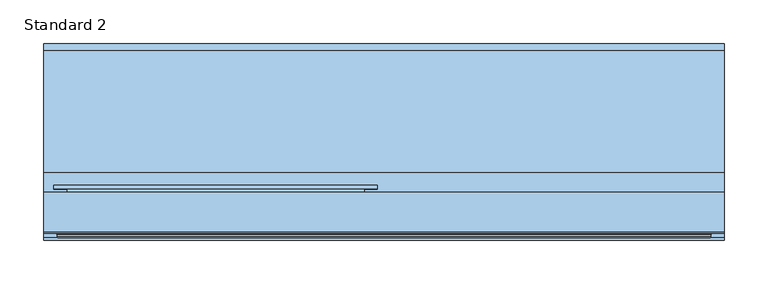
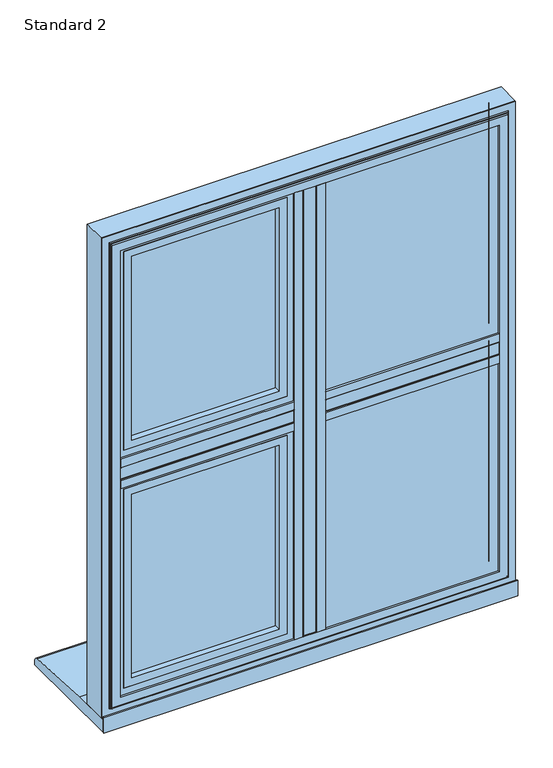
"""IFC4 building model written with IfcOpenShell, lengths in millimetres: window geometry, SMARTS_AlithermHeritage : Standard 2."""

from ifc_helpers import new_model, si_unit, point, frame, frame_2d, origin, place, context, project, spatial, polyline, circle_curve, ellipse_curve, trimmed, segment, composite_curve, outline, extrude, faceted_brep, source, transform, mapped, element, save
from ifc_brep_helpers import plane_surface, cylinder_surface, revolved_surface, advanced_brep


def standard_2_6e61233b(model_context):
    return source(origin(), model_context, "Body", "SolidModel", [
        extrude(outline(polyline([(-13.6941456, 95.2798432), (13.6941456, 95.2798432), (13.6941456, 47.279476), (-13.6941456, 47.279476), (-13.6941456, 95.2798432)])), frame((0.0, 0.0, 652.6941456), z_axis=(0.0, 0.0, 1.0), x_axis=(1.0, 0.0, 0.0)), (0.0, 0.0, 1.0), 919.6117089),
        extrude(outline(composite_curve([segment(polyline([(-29.0, 47.279476), (29.0, 47.279476), (29.0, 43.2798432), (13.0, 43.2798432)]), True, "CONTINUOUS"), segment(trimmed(circle_curve(frame_2d((13.0, 44.2798432)), 1.0), [point((13.0, 43.2798432))], [point((12.0, 44.2798432))], False, "CARTESIAN"), True, "CONTINUOUS"), segment(polyline([(12.0, 44.2798432), (12.0, 45.7798432), (-12.0, 45.7798432), (-12.0, 44.2798432)]), True, "CONTINUOUS"), segment(trimmed(circle_curve(frame_2d((-13.0, 44.2798432)), 1.0), [point((-12.0, 44.2798432))], [point((-13.0, 43.2798432))], False, "CARTESIAN"), True, "CONTINUOUS"), segment(polyline([(-13.0, 43.2798432), (-29.0, 43.2798432), (-29.0, 47.279476)]), True, "CONTINUOUS")], self_intersect=False)), frame((0.0, 0.0, 668.0), z_axis=(0.0, 0.0, 1.0), x_axis=(1.0, 0.0, 0.0)), (0.0, 0.0, 1.0), 889.0),
        extrude(outline(polyline([(-13.6941456, 95.2798432), (-13.6941456, 47.279476), (-372.3058544, 47.279476), (-372.3058544, 95.2798432), (-13.6941456, 95.2798432)])), frame((0.0, 0.0, 1098.8058544), z_axis=(0.0, 0.0, 1.0), x_axis=(1.0, 0.0, 0.0)), (0.0, 0.0, 1.0), 27.3882911),
        extrude(outline(composite_curve([segment(polyline([(47.279476, 1083.5), (43.2798432, 1083.5), (43.2798432, 1099.5)]), True, "CONTINUOUS"), segment(trimmed(circle_curve(frame_2d((44.2798432, 1099.5)), 1.0), [point((43.2798432, 1099.5))], [point((44.2798432, 1100.5))], False, "CARTESIAN"), True, "CONTINUOUS"), segment(polyline([(44.2798432, 1100.5), (45.7798432, 1100.5), (45.7798432, 1124.5), (44.2798432, 1124.5)]), True, "CONTINUOUS"), segment(trimmed(circle_curve(frame_2d((44.2798432, 1125.5)), 1.0), [point((44.2798432, 1124.5))], [point((43.2798432, 1125.5))], False, "CARTESIAN"), True, "CONTINUOUS"), segment(polyline([(43.2798432, 1125.5), (43.2798432, 1141.5), (47.279476, 1141.5), (47.279476, 1083.5)]), True, "CONTINUOUS")], self_intersect=False)), frame((-357.0, 0.0, 0.0), z_axis=(1.0, 0.0, 0.0), x_axis=(0.0, 1.0, 0.0)), (0.0, 0.0, 1.0), 328.0),
        extrude(outline(polyline([(372.3058544, 95.2798432), (372.3058544, 47.279476), (13.6941456, 47.279476), (13.6941456, 95.2798432), (372.3058544, 95.2798432)])), frame((0.0, 0.0, 1098.8058544), z_axis=(0.0, 0.0, 1.0), x_axis=(1.0, 0.0, 0.0)), (0.0, 0.0, 1.0), 27.3882911),
        extrude(outline(composite_curve([segment(polyline([(47.279476, 1083.5), (43.2798432, 1083.5), (43.2798432, 1099.5)]), True, "CONTINUOUS"), segment(trimmed(circle_curve(frame_2d((44.2798432, 1099.5)), 1.0), [point((43.2798432, 1099.5))], [point((44.2798432, 1100.5))], False, "CARTESIAN"), True, "CONTINUOUS"), segment(polyline([(44.2798432, 1100.5), (45.7798432, 1100.5), (45.7798432, 1124.5), (44.2798432, 1124.5)]), True, "CONTINUOUS"), segment(trimmed(circle_curve(frame_2d((44.2798432, 1125.5)), 1.0), [point((44.2798432, 1124.5))], [point((43.2798432, 1125.5))], False, "CARTESIAN"), True, "CONTINUOUS"), segment(polyline([(43.2798432, 1125.5), (43.2798432, 1141.5), (47.279476, 1141.5), (47.279476, 1083.5)]), True, "CONTINUOUS")], self_intersect=False)), frame((29.0, 0.0, 0.0), z_axis=(1.0, 0.0, 0.0), x_axis=(0.0, 1.0, 0.0)), (0.0, 0.0, 1.0), 328.0),
        extrude(outline(polyline([(-343.5, 89.2798432), (-42.5, 89.2798432), (-42.5, 85.2798432), (-343.5, 85.2798432), (-343.5, 89.2798432)])), frame((0.0, 0.0, 681.5), z_axis=(0.0, 0.0, 1.0), x_axis=(1.0, 0.0, 0.0)), (0.0, 0.0, 1.0), 388.5),
        extrude(outline(polyline([(-343.5, 69.2798432), (-42.5, 69.2798432), (-42.5, 65.2798432), (-343.5, 65.2798432), (-343.5, 69.2798432)])), frame((0.0, 0.0, 681.5), z_axis=(0.0, 0.0, 1.0), x_axis=(1.0, 0.0, 0.0)), (0.0, 0.0, 1.0), 388.5),
        extrude(outline(polyline([(1070.0, -343.5), (681.5, -343.5), (681.5, -42.5), (1070.0, -42.5), (1070.0, -343.5)]), holes=[polyline([(1060.0, -52.5), (691.5, -52.5), (691.5, -333.5), (1060.0, -333.5), (1060.0, -52.5)])]), frame((0.0, 69.2798432, 0.0), z_axis=(0.0, 1.0, 0.0), x_axis=(0.0, 0.0, 1.0)), (0.0, 0.0, 1.0), 16.0),
        extrude(outline(polyline([(1073.5052956, -347.0052956), (677.9947044, -347.0052956), (677.9947044, -38.9947044), (1073.5052956, -38.9947044), (1073.5052956, -347.0052956)]), holes=[polyline([(1058.5, -54.0), (693.0, -54.0), (693.0, -332.0), (1058.5, -332.0), (1058.5, -54.0)])]), frame((0.0, 51.2798432, 0.0), z_axis=(0.0, 1.0, 0.0), x_axis=(0.0, 0.0, 1.0)), (0.0, 0.0, 1.0), 11.3),
        extrude(outline(polyline([(662.3548042, -362.6451958), (662.3548042, -23.3548042), (1089.1451958, -23.3548042), (1089.1451958, -362.6451958), (662.3548042, -362.6451958)]), holes=[polyline([(1073.5, -347.0), (1073.5, -39.0), (678.0, -39.0), (678.0, -347.0), (1073.5, -347.0)])]), frame((0.0, 51.2798432, 0.0), z_axis=(0.0, 1.0, 0.0), x_axis=(0.0, 0.0, 1.0)), (0.0, 0.0, 1.0), 41.6),
        advanced_brep(
        [(-332.0, 98.0798432, 1058.5), (-332.0, 92.8798432, 1058.5), (-332.0, 92.8798432, 693.0), (-332.0, 98.0798432, 693.0), (-54.0, 92.8798432, 693.0), (-54.0, 98.0798432, 693.0), (-54.0, 92.8798432, 1058.5), (-54.0, 98.0798432, 1058.5), (-378.2, 99.2798432, 1104.7), (-378.2, 103.2798432, 1104.7), (-378.2, 103.2798432, 646.8), (-378.2, 99.2798432, 646.8), (-7.8, 103.2798432, 646.8), (-7.8, 99.2798432, 646.8), (-7.8, 103.2798432, 1104.7), (-7.8, 99.2798432, 1104.7), (-363.1467657, 99.2798432, 1089.6467657), (-22.8532343, 99.2798432, 1089.6467657), (-22.8532343, 99.2798432, 661.8532343), (-363.1467657, 99.2798432, 661.8532343), (-349.2, 103.2798432, 675.8), (-36.8, 103.2798432, 675.8), (-36.8, 103.2798432, 1075.7), (-349.2, 103.2798432, 1075.7), (-363.1467657, 92.8798432, 1089.6467657), (-363.1467657, 92.8798432, 661.8532343), (-22.8532343, 92.8798432, 661.8532343), (-22.8532343, 92.8798432, 1089.6467657), (-347.2, 101.2798432, 1073.7), (-347.2, 100.0798432, 1073.7), (-347.2, 100.0798432, 677.8), (-347.2, 101.2798432, 677.8), (-345.2, 98.0798432, 1071.7), (-345.2, 98.0798432, 679.8), (-38.8, 100.0798432, 677.8), (-38.8, 101.2798432, 677.8), (-40.8, 98.0798432, 679.8), (-38.8, 100.0798432, 1073.7), (-38.8, 101.2798432, 1073.7), (-40.8, 98.0798432, 1071.7)],
        [
            (0, 1),
            (1, 2),
            (2, 3),
            (3, 0),
            (2, 4),
            (4, 5),
            (5, 3),
            (4, 6),
            (6, 7),
            (7, 5),
            (6, 1),
            (0, 7),
            (8, 9),
            (9, 10),
            (10, 11),
            (11, 8),
            (10, 12),
            (12, 13),
            (13, 11),
            (12, 14),
            (14, 15),
            (15, 13),
            (15, 8),
            (16, 17),
            (17, 18),
            (18, 19),
            (19, 16),
            (14, 9),
            (20, 21),
            (21, 22),
            (22, 23),
            (23, 20),
            (24, 16),
            (19, 25),
            (25, 24),
            (18, 26),
            (26, 25),
            (17, 27),
            (27, 26),
            (27, 24),
            (28, 29),
            (29, 30),
            (30, 31),
            (31, 28),
            (29, 32, ellipse_curve(frame((-345.2, 100.0798432, 1071.7), z_axis=(0.7071067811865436, 0.0, 0.7071067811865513), x_axis=(0.7071067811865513, 0.0, -0.7071067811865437)), 2.8284271, 2.0)),
            (32, 33),
            (33, 30, ellipse_curve(frame((-345.2, 100.0798432, 679.8), z_axis=(0.7071067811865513, 0.0, -0.7071067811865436), x_axis=(-0.7071067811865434, 0.0, -0.7071067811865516)), 2.8284271, 2.0)),
            (30, 34),
            (34, 35),
            (35, 31),
            (33, 36),
            (36, 34, ellipse_curve(frame((-40.8, 100.0798432, 679.8), z_axis=(0.7071067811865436, 0.0, 0.7071067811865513), x_axis=(0.7071067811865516, 0.0, -0.7071067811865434)), 2.8284271, 2.0)),
            (34, 37),
            (37, 38),
            (38, 35),
            (36, 39),
            (39, 37, ellipse_curve(frame((-40.8, 100.0798432, 1071.7), z_axis=(-0.7071067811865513, 0.0, 0.7071067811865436), x_axis=(0.7071067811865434, 0.0, 0.7071067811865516)), 2.8284271, 2.0)),
            (32, 39),
            (37, 29),
            (28, 38),
            (23, 28, ellipse_curve(frame((-349.2, 101.2798432, 1075.7), z_axis=(-0.7071067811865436, 0.0, -0.7071067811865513), x_axis=(-0.7071067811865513, 0.0, 0.7071067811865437)), 2.8284271, 2.0)),
            (31, 20, ellipse_curve(frame((-349.2, 101.2798432, 675.8), z_axis=(-0.7071067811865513, 0.0, 0.7071067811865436), x_axis=(0.7071067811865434, 0.0, 0.7071067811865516)), 2.8284271, 2.0)),
            (35, 21, ellipse_curve(frame((-36.8, 101.2798432, 675.8), z_axis=(-0.7071067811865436, 0.0, -0.7071067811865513), x_axis=(-0.7071067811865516, 0.0, 0.7071067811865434)), 2.8284271, 2.0)),
            (38, 22, ellipse_curve(frame((-36.8, 101.2798432, 1075.7), z_axis=(0.7071067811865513, 0.0, -0.7071067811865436), x_axis=(-0.7071067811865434, 0.0, -0.7071067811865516)), 2.8284271, 2.0)),
        ],
        [
            plane_surface(frame((-332.0, 92.8798432, 1058.5), z_axis=(1.0, 0.0, 0.0), x_axis=(0.0, 0.0, -1.0))),
            plane_surface(frame((-332.0, 92.8798432, 693.0), z_axis=(0.0, 0.0, 1.0), x_axis=(1.0, 0.0, 0.0))),
            plane_surface(frame((-54.0, 92.8798432, 693.0), z_axis=(-1.0, 0.0, 0.0), x_axis=(0.0, 0.0, 1.0))),
            plane_surface(frame((-54.0, 92.8798432, 1058.5), z_axis=(0.0, 0.0, -1.0), x_axis=(-1.0, 0.0, 0.0))),
            plane_surface(frame((-378.2, 103.2798432, 1104.7), z_axis=(-1.0, 0.0, 0.0), x_axis=(0.0, 0.0, -1.0))),
            plane_surface(frame((-378.2, 103.2798432, 646.8), z_axis=(0.0, 0.0, -1.0), x_axis=(1.0, 0.0, 0.0))),
            plane_surface(frame((-7.8, 103.2798432, 646.8), z_axis=(1.0, 0.0, 0.0), x_axis=(0.0, 0.0, 1.0))),
            plane_surface(frame((-7.8, 99.2798432, 1104.7), z_axis=(0.0, -1.0, 0.0), x_axis=(-1.0, 0.0, 0.0))),
            plane_surface(frame((-7.8, 103.2798432, 1104.7), z_axis=(0.0, 0.0, 1.0), x_axis=(-1.0, 0.0, 0.0))),
            plane_surface(frame((-36.8, 103.2798432, 1075.7), z_axis=(0.0, 1.0, 0.0), x_axis=(-1.0, 0.0, 0.0))),
            plane_surface(frame((-363.1467657, 99.2798432, 1089.6467657), z_axis=(-1.0, 0.0, 0.0), x_axis=(0.0, 0.0, -1.0))),
            plane_surface(frame((-363.1467657, 99.2798432, 661.8532343), z_axis=(0.0, 0.0, -1.0), x_axis=(1.0, 0.0, 0.0))),
            plane_surface(frame((-22.8532343, 99.2798432, 661.8532343), z_axis=(1.0, 0.0, 0.0), x_axis=(0.0, 0.0, 1.0))),
            plane_surface(frame((-22.8532343, 92.8798432, 1089.6467657), z_axis=(0.0, -1.0, 0.0), x_axis=(-1.0, 0.0, 0.0))),
            plane_surface(frame((-22.8532343, 99.2798432, 1089.6467657), z_axis=(0.0, 0.0, 1.0), x_axis=(-1.0, 0.0, 0.0))),
            plane_surface(frame((-347.2, 100.0798432, 1073.7), z_axis=(1.0, 0.0, 0.0), x_axis=(0.0, 0.0, -1.0))),
            revolved_surface(polyline([(-347.2, 100.0798432, 677.8), (-347.2, 100.0798432, 1073.7)]), (-345.2, 100.0798432, 1083.5), (0.0, 0.0, -1.0)),
            plane_surface(frame((-347.2, 100.0798432, 677.8), z_axis=(0.0, 0.0, 1.0), x_axis=(1.0, 0.0, 0.0))),
            revolved_surface(polyline([(-38.80000000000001, 100.0798432, 677.8), (-347.2, 100.0798432, 677.8)]), (-357.0, 100.0798432, 679.8), (1.0, 0.0, 0.0)),
            plane_surface(frame((-38.8, 100.0798432, 677.8), z_axis=(-1.0, 0.0, 0.0), x_axis=(0.0, 0.0, 1.0))),
            revolved_surface(polyline([(-38.8, 100.0798432, 1073.7), (-38.8, 100.0798432, 677.8)]), (-40.8, 100.0798432, 668.0), (0.0, 0.0, 1.0)),
            plane_surface(frame((-54.0, 98.0798432, 1058.5), z_axis=(0.0, 1.0, 0.0), x_axis=(-1.0, 0.0, 0.0))),
            plane_surface(frame((-38.8, 100.0798432, 1073.7), z_axis=(0.0, 0.0, -1.0), x_axis=(-1.0, 0.0, 0.0))),
            revolved_surface(polyline([(-347.2, 100.0798432, 1073.7), (-38.8, 100.0798432, 1073.7)]), (-29.0, 100.0798432, 1071.7), (-1.0, 0.0, 0.0)),
            cylinder_surface(frame((-349.2, 101.2798432, 1083.5), z_axis=(0.0, 0.0, 1.0), x_axis=(-1.0, 0.0, 0.0)), 2.0),
            cylinder_surface(frame((-357.0, 101.2798432, 675.8), z_axis=(-1.0, 0.0, 0.0), x_axis=(0.0, 0.0, -1.0)), 2.0),
            cylinder_surface(frame((-36.8, 101.2798432, 668.0), z_axis=(0.0, 0.0, -1.0), x_axis=(1.0, 0.0, 0.0)), 2.0),
            cylinder_surface(frame((-29.0, 101.2798432, 1075.7), z_axis=(1.0, 0.0, 0.0), x_axis=(0.0, 0.0, 1.0)), 2.0),
        ],
        [
            (0, [[1, 2, 3, 4]]),
            (1, [[-3, 5, 6, 7]]),
            (2, [[-6, 8, 9, 10]]),
            (3, [[-9, 11, -1, 12]]),
            (4, [[13, 14, 15, 16]]),
            (5, [[-15, 17, 18, 19]]),
            (6, [[-18, 20, 21, 22]]),
            (7, [[-19, -22, 23, -16], [24, 25, 26, 27]]),
            (8, [[-21, 28, -13, -23]]),
            (9, [[-28, -20, -17, -14], [29, 30, 31, 32]]),
            (10, [[33, -27, 34, 35]]),
            (11, [[-34, -26, 36, 37]]),
            (12, [[-36, -25, 38, 39]]),
            (13, [[-37, -39, 40, -35], [-11, -8, -5, -2]]),
            (14, [[-38, -24, -33, -40]]),
            (15, [[41, 42, 43, 44]]),
            (16, [[45, 46, 47, -42]]),
            (17, [[-43, 48, 49, 50]]),
            (18, [[-47, 51, 52, -48]]),
            (19, [[-49, 53, 54, 55]]),
            (20, [[-52, 56, 57, -53]]),
            (21, [[58, -56, -51, -46], [-7, -10, -12, -4]]),
            (22, [[-54, 59, -41, 60]]),
            (23, [[-57, -58, -45, -59]]),
            (24, [[61, -44, 62, -32]]),
            (25, [[-62, -50, 63, -29]]),
            (26, [[-63, -55, 64, -30]]),
            (27, [[-64, -60, -61, -31]]),
        ],
    ),
        extrude(outline(polyline([(-343.5, 89.2798432), (-42.5, 89.2798432), (-42.5, 85.2798432), (-343.5, 85.2798432), (-343.5, 89.2798432)])), frame((0.0, 0.0, 1155.0), z_axis=(0.0, 0.0, 1.0), x_axis=(1.0, 0.0, 0.0)), (0.0, 0.0, 1.0), 388.5),
        extrude(outline(polyline([(-343.5, 69.2798432), (-42.5, 69.2798432), (-42.5, 65.2798432), (-343.5, 65.2798432), (-343.5, 69.2798432)])), frame((0.0, 0.0, 1155.0), z_axis=(0.0, 0.0, 1.0), x_axis=(1.0, 0.0, 0.0)), (0.0, 0.0, 1.0), 388.5),
        extrude(outline(polyline([(1543.5, -343.5), (1155.0, -343.5), (1155.0, -42.5), (1543.5, -42.5), (1543.5, -343.5)]), holes=[polyline([(1533.5, -52.5), (1165.0, -52.5), (1165.0, -333.5), (1533.5, -333.5), (1533.5, -52.5)])]), frame((0.0, 69.2798432, 0.0), z_axis=(0.0, 1.0, 0.0), x_axis=(0.0, 0.0, 1.0)), (0.0, 0.0, 1.0), 16.0),
        extrude(outline(polyline([(1547.0052956, -347.0052956), (1151.4947044, -347.0052956), (1151.4947044, -38.9947044), (1547.0052956, -38.9947044), (1547.0052956, -347.0052956)]), holes=[polyline([(1532.0, -54.0), (1166.5, -54.0), (1166.5, -332.0), (1532.0, -332.0), (1532.0, -54.0)])]), frame((0.0, 51.2798432, 0.0), z_axis=(0.0, 1.0, 0.0), x_axis=(0.0, 0.0, 1.0)), (0.0, 0.0, 1.0), 11.3),
        extrude(outline(polyline([(1135.8548042, -362.6451958), (1135.8548042, -23.3548042), (1562.6451958, -23.3548042), (1562.6451958, -362.6451958), (1135.8548042, -362.6451958)]), holes=[polyline([(1547.0, -347.0), (1547.0, -39.0), (1151.5, -39.0), (1151.5, -347.0), (1547.0, -347.0)])]), frame((0.0, 51.2798432, 0.0), z_axis=(0.0, 1.0, 0.0), x_axis=(0.0, 0.0, 1.0)), (0.0, 0.0, 1.0), 41.6),
        advanced_brep(
        [(-332.0, 98.0798432, 1532.0), (-332.0, 92.8798432, 1532.0), (-332.0, 92.8798432, 1166.5), (-332.0, 98.0798432, 1166.5), (-54.0, 92.8798432, 1166.5), (-54.0, 98.0798432, 1166.5), (-54.0, 92.8798432, 1532.0), (-54.0, 98.0798432, 1532.0), (-378.2, 99.2798432, 1578.2), (-378.2, 103.2798432, 1578.2), (-378.2, 103.2798432, 1120.3), (-378.2, 99.2798432, 1120.3), (-7.8, 103.2798432, 1120.3), (-7.8, 99.2798432, 1120.3), (-7.8, 103.2798432, 1578.2), (-7.8, 99.2798432, 1578.2), (-363.1467657, 99.2798432, 1563.1467657), (-22.8532343, 99.2798432, 1563.1467657), (-22.8532343, 99.2798432, 1135.3532343), (-363.1467657, 99.2798432, 1135.3532343), (-349.2, 103.2798432, 1149.3), (-36.8, 103.2798432, 1149.3), (-36.8, 103.2798432, 1549.2), (-349.2, 103.2798432, 1549.2), (-363.1467657, 92.8798432, 1563.1467657), (-363.1467657, 92.8798432, 1135.3532343), (-22.8532343, 92.8798432, 1135.3532343), (-22.8532343, 92.8798432, 1563.1467657), (-347.2, 101.2798432, 1547.2), (-347.2, 100.0798432, 1547.2), (-347.2, 100.0798432, 1151.3), (-347.2, 101.2798432, 1151.3), (-345.2, 98.0798432, 1545.2), (-345.2, 98.0798432, 1153.3), (-38.8, 100.0798432, 1151.3), (-38.8, 101.2798432, 1151.3), (-40.8, 98.0798432, 1153.3), (-38.8, 100.0798432, 1547.2), (-38.8, 101.2798432, 1547.2), (-40.8, 98.0798432, 1545.2)],
        [
            (0, 1),
            (1, 2),
            (2, 3),
            (3, 0),
            (2, 4),
            (4, 5),
            (5, 3),
            (4, 6),
            (6, 7),
            (7, 5),
            (6, 1),
            (0, 7),
            (8, 9),
            (9, 10),
            (10, 11),
            (11, 8),
            (10, 12),
            (12, 13),
            (13, 11),
            (12, 14),
            (14, 15),
            (15, 13),
            (15, 8),
            (16, 17),
            (17, 18),
            (18, 19),
            (19, 16),
            (14, 9),
            (20, 21),
            (21, 22),
            (22, 23),
            (23, 20),
            (24, 16),
            (19, 25),
            (25, 24),
            (18, 26),
            (26, 25),
            (17, 27),
            (27, 26),
            (27, 24),
            (28, 29),
            (29, 30),
            (30, 31),
            (31, 28),
            (29, 32, ellipse_curve(frame((-345.2, 100.0798432, 1545.2), z_axis=(0.7071067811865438, 0.0, 0.7071067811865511), x_axis=(0.707106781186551, 0.0, -0.7071067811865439)), 2.8284271, 2.0)),
            (32, 33),
            (33, 30, ellipse_curve(frame((-345.2, 100.0798432, 1153.3), z_axis=(0.7071067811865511, 0.0, -0.7071067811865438), x_axis=(-0.7071067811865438, 0.0, -0.7071067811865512)), 2.8284271, 2.0)),
            (30, 34),
            (34, 35),
            (35, 31),
            (33, 36),
            (36, 34, ellipse_curve(frame((-40.8, 100.0798432, 1153.3), z_axis=(0.7071067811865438, 0.0, 0.7071067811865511), x_axis=(0.7071067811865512, 0.0, -0.7071067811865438)), 2.8284271, 2.0)),
            (34, 37),
            (37, 38),
            (38, 35),
            (36, 39),
            (39, 37, ellipse_curve(frame((-40.8, 100.0798432, 1545.2), z_axis=(-0.7071067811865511, 0.0, 0.7071067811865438), x_axis=(0.7071067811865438, 0.0, 0.7071067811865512)), 2.8284271, 2.0)),
            (32, 39),
            (37, 29),
            (28, 38),
            (23, 28, ellipse_curve(frame((-349.2, 101.2798432, 1549.2), z_axis=(-0.7071067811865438, 0.0, -0.7071067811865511), x_axis=(-0.707106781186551, 0.0, 0.7071067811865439)), 2.8284271, 2.0)),
            (31, 20, ellipse_curve(frame((-349.2, 101.2798432, 1149.3), z_axis=(-0.7071067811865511, 0.0, 0.7071067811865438), x_axis=(0.7071067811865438, 0.0, 0.7071067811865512)), 2.8284271, 2.0)),
            (35, 21, ellipse_curve(frame((-36.8, 101.2798432, 1149.3), z_axis=(-0.7071067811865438, 0.0, -0.7071067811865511), x_axis=(-0.7071067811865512, 0.0, 0.7071067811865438)), 2.8284271, 2.0)),
            (38, 22, ellipse_curve(frame((-36.8, 101.2798432, 1549.2), z_axis=(0.7071067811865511, 0.0, -0.7071067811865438), x_axis=(-0.7071067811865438, 0.0, -0.7071067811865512)), 2.8284271, 2.0)),
        ],
        [
            plane_surface(frame((-332.0, 92.8798432, 1532.0), z_axis=(1.0, 0.0, 0.0), x_axis=(0.0, 0.0, -1.0))),
            plane_surface(frame((-332.0, 92.8798432, 1166.5), z_axis=(0.0, 0.0, 1.0), x_axis=(1.0, 0.0, 0.0))),
            plane_surface(frame((-54.0, 92.8798432, 1166.5), z_axis=(-1.0, 0.0, 0.0), x_axis=(0.0, 0.0, 1.0))),
            plane_surface(frame((-54.0, 92.8798432, 1532.0), z_axis=(0.0, 0.0, -1.0), x_axis=(-1.0, 0.0, 0.0))),
            plane_surface(frame((-378.2, 103.2798432, 1578.2), z_axis=(-1.0, 0.0, 0.0), x_axis=(0.0, 0.0, -1.0))),
            plane_surface(frame((-378.2, 103.2798432, 1120.3), z_axis=(0.0, 0.0, -1.0), x_axis=(1.0, 0.0, 0.0))),
            plane_surface(frame((-7.8, 103.2798432, 1120.3), z_axis=(1.0, 0.0, 0.0), x_axis=(0.0, 0.0, 1.0))),
            plane_surface(frame((-7.8, 99.2798432, 1578.2), z_axis=(0.0, -1.0, 0.0), x_axis=(-1.0, 0.0, 0.0))),
            plane_surface(frame((-7.8, 103.2798432, 1578.2), z_axis=(0.0, 0.0, 1.0), x_axis=(-1.0, 0.0, 0.0))),
            plane_surface(frame((-36.8, 103.2798432, 1549.2), z_axis=(0.0, 1.0, 0.0), x_axis=(-1.0, 0.0, 0.0))),
            plane_surface(frame((-363.1467657, 99.2798432, 1563.1467657), z_axis=(-1.0, 0.0, 0.0), x_axis=(0.0, 0.0, -1.0))),
            plane_surface(frame((-363.1467657, 99.2798432, 1135.3532343), z_axis=(0.0, 0.0, -1.0), x_axis=(1.0, 0.0, 0.0))),
            plane_surface(frame((-22.8532343, 99.2798432, 1135.3532343), z_axis=(1.0, 0.0, 0.0), x_axis=(0.0, 0.0, 1.0))),
            plane_surface(frame((-22.8532343, 92.8798432, 1563.1467657), z_axis=(0.0, -1.0, 0.0), x_axis=(-1.0, 0.0, 0.0))),
            plane_surface(frame((-22.8532343, 99.2798432, 1563.1467657), z_axis=(0.0, 0.0, 1.0), x_axis=(-1.0, 0.0, 0.0))),
            plane_surface(frame((-347.2, 100.0798432, 1547.2), z_axis=(1.0, 0.0, 0.0), x_axis=(0.0, 0.0, -1.0))),
            revolved_surface(polyline([(-347.2, 100.0798432, 1151.3), (-347.2, 100.0798432, 1547.2)]), (-345.2, 100.0798432, 1557.0), (0.0, 0.0, -1.0)),
            plane_surface(frame((-347.2, 100.0798432, 1151.3), z_axis=(0.0, 0.0, 1.0), x_axis=(1.0, 0.0, 0.0))),
            revolved_surface(polyline([(-38.80000000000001, 100.0798432, 1151.3), (-347.2, 100.0798432, 1151.3)]), (-357.0, 100.0798432, 1153.3), (1.0, 0.0, 0.0)),
            plane_surface(frame((-38.8, 100.0798432, 1151.3), z_axis=(-1.0, 0.0, 0.0), x_axis=(0.0, 0.0, 1.0))),
            revolved_surface(polyline([(-38.8, 100.0798432, 1547.2), (-38.8, 100.0798432, 1151.3)]), (-40.8, 100.0798432, 1141.5), (0.0, 0.0, 1.0)),
            plane_surface(frame((-54.0, 98.0798432, 1532.0), z_axis=(0.0, 1.0, 0.0), x_axis=(-1.0, 0.0, 0.0))),
            plane_surface(frame((-38.8, 100.0798432, 1547.2), z_axis=(0.0, 0.0, -1.0), x_axis=(-1.0, 0.0, 0.0))),
            revolved_surface(polyline([(-347.2, 100.0798432, 1547.2), (-38.8, 100.0798432, 1547.2)]), (-29.0, 100.0798432, 1545.2), (-1.0, 0.0, 0.0)),
            cylinder_surface(frame((-349.2, 101.2798432, 1557.0), z_axis=(0.0, 0.0, 1.0), x_axis=(-1.0, 0.0, 0.0)), 2.0),
            cylinder_surface(frame((-357.0, 101.2798432, 1149.3), z_axis=(-1.0, 0.0, 0.0), x_axis=(0.0, 0.0, -1.0)), 2.0),
            cylinder_surface(frame((-36.8, 101.2798432, 1141.5), z_axis=(0.0, 0.0, -1.0), x_axis=(1.0, 0.0, 0.0)), 2.0),
            cylinder_surface(frame((-29.0, 101.2798432, 1549.2), z_axis=(1.0, 0.0, 0.0), x_axis=(0.0, 0.0, 1.0)), 2.0),
        ],
        [
            (0, [[1, 2, 3, 4]]),
            (1, [[-3, 5, 6, 7]]),
            (2, [[-6, 8, 9, 10]]),
            (3, [[-9, 11, -1, 12]]),
            (4, [[13, 14, 15, 16]]),
            (5, [[-15, 17, 18, 19]]),
            (6, [[-18, 20, 21, 22]]),
            (7, [[-19, -22, 23, -16], [24, 25, 26, 27]]),
            (8, [[-21, 28, -13, -23]]),
            (9, [[-28, -20, -17, -14], [29, 30, 31, 32]]),
            (10, [[33, -27, 34, 35]]),
            (11, [[-34, -26, 36, 37]]),
            (12, [[-36, -25, 38, 39]]),
            (13, [[-37, -39, 40, -35], [-11, -8, -5, -2]]),
            (14, [[-38, -24, -33, -40]]),
            (15, [[41, 42, 43, 44]]),
            (16, [[45, 46, 47, -42]]),
            (17, [[-43, 48, 49, 50]]),
            (18, [[-47, 51, 52, -48]]),
            (19, [[-49, 53, 54, 55]]),
            (20, [[-52, 56, 57, -53]]),
            (21, [[58, -56, -51, -46], [-7, -10, -12, -4]]),
            (22, [[-54, 59, -41, 60]]),
            (23, [[-57, -58, -45, -59]]),
            (24, [[61, -44, 62, -32]]),
            (25, [[-62, -50, 63, -29]]),
            (26, [[-63, -55, 64, -30]]),
            (27, [[-64, -60, -61, -31]]),
        ],
    ),
        extrude(outline(polyline([(19.0, 75.2798432), (367.0, 75.2798432), (367.0, 71.2798432), (19.0, 71.2798432), (19.0, 75.2798432)])), frame((0.0, 0.0, 658.0), z_axis=(0.0, 0.0, 1.0), x_axis=(1.0, 0.0, 0.0)), (0.0, 0.0, 1.0), 435.5),
        extrude(outline(polyline([(19.0, 55.2798432), (367.0, 55.2798432), (367.0, 51.2798432), (19.0, 51.2798432), (19.0, 55.2798432)])), frame((0.0, 0.0, 658.0), z_axis=(0.0, 0.0, 1.0), x_axis=(1.0, 0.0, 0.0)), (0.0, 0.0, 1.0), 435.5),
        extrude(outline(polyline([(1093.5, 19.0), (658.0, 19.0), (658.0, 367.0), (1093.5, 367.0), (1093.5, 19.0)]), holes=[polyline([(1083.5, 357.0), (668.0, 357.0), (668.0, 29.0), (1083.5, 29.0), (1083.5, 357.0)])]), frame((0.0, 55.2798432, 0.0), z_axis=(0.0, 1.0, 0.0), x_axis=(0.0, 0.0, 1.0)), (0.0, 0.0, 1.0), 16.0),
        faceted_brep([(366.8148849, 95.2798432, 1093.3148849), (357.0, 78.2798098, 1083.5), (29.0, 78.2798098, 1083.5), (19.1851151, 95.2798432, 1093.3148849), (372.3702676, 78.2798098, 1098.8702676), (372.3702676, 95.2798432, 1098.8702676), (13.6297324, 95.2798432, 1098.8702676), (13.6297324, 78.2798098, 1098.8702676), (13.6297324, 78.2798098, 652.6297324), (13.6297324, 95.2798432, 652.6297324), (372.3702676, 95.2798432, 652.6297324), (372.3702676, 78.2798098, 652.6297324), (19.1851151, 95.2798432, 658.1851151), (366.8148849, 95.2798432, 658.1851151), (357.0, 78.2798098, 668.0), (29.0, 78.2798098, 668.0)], [[[0, 1, 2, 3]], [[4, 5, 6, 7]], [[8, 9, 10, 11]], [[5, 10, 9, 6], [3, 12, 13, 0]], [[7, 8, 11, 4], [1, 14, 15, 2]], [[3, 2, 15, 12]], [[7, 6, 9, 8]], [[12, 15, 14, 13]], [[13, 14, 1, 0]], [[11, 10, 5, 4]]]),
        extrude(outline(polyline([(1590.0, 390.0), (1590.0, -390.0), (635.0, -390.0), (635.0, 390.0), (1590.0, 390.0)]), holes=[polyline([(652.7000182, 372.2999818), (652.7000182, -372.2999818), (1572.2999818, -372.2999818), (1572.2999818, 372.2999818), (652.7000182, 372.2999818)])]), frame((0.0, 50.279857, 0.0), z_axis=(0.0, 1.0, 0.0), x_axis=(0.0, 0.0, 1.0)), (0.0, 0.0, 1.0), 44.9999962),
        advanced_brep(
        [(357.0, 43.2798432, 1557.0), (357.0, 47.2798432, 1557.0), (357.0, 47.2798432, 668.0), (357.0, 43.2798432, 668.0), (390.0, 50.279857, 1590.0), (390.0, 48.279857, 1590.0), (390.0, 48.279857, 635.0), (390.0, 50.279857, 635.0), (372.4999818, 43.2798432, 1572.4999818), (-372.4999818, 43.2798432, 1572.4999818), (-372.4999818, 43.2798432, 652.5000182), (372.4999818, 43.2798432, 652.5000182), (-357.0, 43.2798432, 668.0), (-357.0, 43.2798432, 1557.0), (-390.0, 50.279857, 1590.0), (-390.0, 48.279857, 1590.0), (-390.0, 50.279857, 635.0), (372.2999818, 50.279857, 1572.2999818), (-372.2999818, 50.279857, 1572.2999818), (-372.2999818, 50.279857, 652.7000182), (372.2999818, 50.279857, 652.7000182), (-357.0, 47.2798432, 1557.0), (-357.0, 47.2798432, 668.0), (-390.0, 48.279857, 635.0), (-372.2999818, 47.2798432, 1572.2999818), (372.2999818, 47.2798432, 1572.2999818), (372.2999818, 47.2798432, 652.7000182), (374.4999818, 46.779857, 650.5000182), (374.4999818, 45.2798432, 650.5000182), (-374.4999818, 45.2798432, 650.5000182), (-374.4999818, 46.779857, 650.5000182), (374.4999818, 46.779857, 1574.4999818), (374.4999818, 45.2798432, 1574.4999818), (-372.2999818, 47.2798432, 652.7000182), (-374.4999818, 45.2798432, 1574.4999818), (-374.4999818, 46.779857, 1574.4999818), (375.9999818, 48.279857, 1575.9999818), (375.9999818, 48.279857, 649.0000182), (-375.9999818, 48.279857, 649.0000182), (-375.9999818, 48.279857, 1575.9999818)],
        [
            (0, 1),
            (1, 2),
            (2, 3),
            (3, 0),
            (4, 5),
            (5, 6),
            (6, 7),
            (7, 4),
            (8, 9),
            (9, 10),
            (10, 11),
            (11, 8),
            (3, 12),
            (12, 13),
            (13, 0),
            (14, 15),
            (15, 5),
            (4, 14),
            (7, 16),
            (16, 14),
            (17, 18),
            (18, 19),
            (19, 20),
            (20, 17),
            (13, 21),
            (21, 1),
            (2, 22),
            (22, 12),
            (22, 21),
            (6, 23),
            (23, 16),
            (23, 15),
            (24, 18),
            (17, 25),
            (25, 24),
            (20, 26),
            (26, 25),
            (27, 28),
            (28, 29),
            (29, 30),
            (30, 27),
            (31, 32),
            (32, 28),
            (27, 31),
            (19, 33),
            (33, 26),
            (24, 33),
            (29, 34),
            (34, 35),
            (35, 30),
            (34, 32),
            (31, 35),
            (36, 31, ellipse_curve(frame((375.9999818, 46.779857, 1575.9999818), z_axis=(-0.7071067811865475, 0.0, 0.7071067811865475), x_axis=(-0.7071067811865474, 0.0, -0.7071067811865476)), 2.1213203, 1.5)),
            (27, 37, ellipse_curve(frame((375.9999818, 46.779857, 649.0000182), z_axis=(-0.7071067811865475, 0.0, -0.7071067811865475), x_axis=(0.7071067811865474, 0.0, -0.7071067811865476)), 2.1213203, 1.5)),
            (37, 36),
            (30, 38, ellipse_curve(frame((-375.9999818, 46.779857, 649.0000182), z_axis=(-0.7071067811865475, 0.0, 0.7071067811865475), x_axis=(-0.7071067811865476, 0.0, -0.7071067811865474)), 2.1213203, 1.5)),
            (38, 37),
            (35, 39, ellipse_curve(frame((-375.9999818, 46.779857, 1575.9999818), z_axis=(0.7071067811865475, 0.0, 0.7071067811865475), x_axis=(-0.7071067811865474, 0.0, 0.7071067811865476)), 2.1213203, 1.5)),
            (39, 38),
            (36, 39),
            (32, 8, ellipse_curve(frame((372.4999818, 45.2798432, 1572.4999818), z_axis=(0.7071067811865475, 0.0, -0.7071067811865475), x_axis=(0.7071067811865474, 0.0, 0.7071067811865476)), 2.8284271, 2.0)),
            (11, 28, ellipse_curve(frame((372.4999818, 45.2798432, 652.5000182), z_axis=(0.7071067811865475, 0.0, 0.7071067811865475), x_axis=(-0.7071067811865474, 0.0, 0.7071067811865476)), 2.8284271, 2.0)),
            (10, 29, ellipse_curve(frame((-372.4999818, 45.2798432, 652.5000182), z_axis=(0.7071067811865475, 0.0, -0.7071067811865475), x_axis=(0.7071067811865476, 0.0, 0.7071067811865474)), 2.8284271, 2.0)),
            (9, 34, ellipse_curve(frame((-372.4999818, 45.2798432, 1572.4999818), z_axis=(-0.7071067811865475, 0.0, -0.7071067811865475), x_axis=(0.7071067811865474, 0.0, -0.7071067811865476)), 2.8284271, 2.0)),
        ],
        [
            plane_surface(frame((357.0, 47.2798432, 1557.0), z_axis=(-1.0, 0.0, 0.0), x_axis=(0.0, 0.0, -1.0))),
            plane_surface(frame((390.0, 48.279857, 1590.0), z_axis=(1.0, 0.0, 0.0), x_axis=(0.0, 0.0, -1.0))),
            plane_surface(frame((-357.0, 43.2798432, 1557.0), z_axis=(0.0, -1.0, 0.0), x_axis=(1.0, 0.0, 0.0))),
            plane_surface(frame((-390.0, 48.279857, 1590.0), z_axis=(0.0, 0.0, 1.0), x_axis=(1.0, 0.0, 0.0))),
            plane_surface(frame((-390.0, 50.279857, 1590.0), z_axis=(0.0, 1.0, 0.0), x_axis=(1.0, 0.0, 0.0))),
            plane_surface(frame((-357.0, 47.2798432, 1557.0), z_axis=(0.0, 0.0, -1.0), x_axis=(1.0, 0.0, 0.0))),
            plane_surface(frame((357.0, 47.2798432, 668.0), z_axis=(0.0, 0.0, 1.0), x_axis=(-1.0, 0.0, 0.0))),
            plane_surface(frame((-357.0, 47.2798432, 668.0), z_axis=(1.0, 0.0, 0.0), x_axis=(0.0, 0.0, 1.0))),
            plane_surface(frame((390.0, 48.279857, 635.0), z_axis=(0.0, 0.0, -1.0), x_axis=(-1.0, 0.0, 0.0))),
            plane_surface(frame((-390.0, 48.279857, 635.0), z_axis=(-1.0, 0.0, 0.0), x_axis=(0.0, 0.0, 1.0))),
            plane_surface(frame((-372.2999818, 50.279857, 1572.2999818), z_axis=(0.0, 0.0, -1.0), x_axis=(1.0, 0.0, 0.0))),
            plane_surface(frame((372.2999818, 50.279857, 1572.2999818), z_axis=(-1.0, 0.0, 0.0), x_axis=(0.0, 0.0, -1.0))),
            plane_surface(frame((374.4999818, 45.2798432, 650.5000182), z_axis=(0.0, 0.0, -1.0), x_axis=(-1.0, 0.0, 0.0))),
            plane_surface(frame((374.4999818, 45.2798432, 1574.4999818), z_axis=(1.0, 0.0, 0.0), x_axis=(0.0, 0.0, -1.0))),
            plane_surface(frame((372.2999818, 50.279857, 652.7000182), z_axis=(0.0, 0.0, 1.0), x_axis=(-1.0, 0.0, 0.0))),
            plane_surface(frame((-372.2999818, 50.279857, 652.7000182), z_axis=(1.0, 0.0, 0.0), x_axis=(0.0, 0.0, 1.0))),
            plane_surface(frame((-374.4999818, 45.2798432, 650.5000182), z_axis=(-1.0, 0.0, 0.0), x_axis=(0.0, 0.0, 1.0))),
            plane_surface(frame((-372.2999818, 47.2798432, 1572.2999818), z_axis=(0.0, 1.0, 0.0), x_axis=(1.0, 0.0, 0.0))),
            plane_surface(frame((-374.4999818, 45.2798432, 1574.4999818), z_axis=(0.0, 0.0, 1.0), x_axis=(1.0, 0.0, 0.0))),
            revolved_surface(polyline([(374.4999818, 46.779857, 647.5000182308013), (374.4999818, 46.779857, 1577.4999817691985)]), (375.9999818, 46.779857, 1590.0), (0.0, 0.0, -1.0)),
            revolved_surface(polyline([(-377.4999817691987, 46.779857, 650.5000182), (377.49998176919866, 46.779857, 650.5000182)]), (390.0, 46.779857, 649.0000182), (-1.0, 0.0, 0.0)),
            revolved_surface(polyline([(-374.4999818, 46.779857, 1577.4999817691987), (-374.4999818, 46.779857, 647.5000182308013)]), (-375.9999818, 46.779857, 635.0), (0.0, 0.0, 1.0)),
            revolved_surface(polyline([(377.4999817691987, 46.779857, 1574.4999818), (-377.49998176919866, 46.779857, 1574.4999818)]), (-390.0, 46.779857, 1575.9999818), (1.0, 0.0, 0.0)),
            plane_surface(frame((-375.9999818, 48.279857, 1575.9999818), z_axis=(0.0, -1.0, 0.0), x_axis=(1.0, 0.0, 0.0))),
            cylinder_surface(frame((372.4999818, 45.2798432, 1590.0), z_axis=(0.0, 0.0, 1.0), x_axis=(-1.0, 0.0, 0.0)), 2.0),
            cylinder_surface(frame((390.0, 45.2798432, 652.5000182), z_axis=(1.0, 0.0, 0.0), x_axis=(0.0, 0.0, 1.0)), 2.0),
            cylinder_surface(frame((-372.4999818, 45.2798432, 635.0), z_axis=(0.0, 0.0, -1.0), x_axis=(1.0, 0.0, 0.0)), 2.0),
            cylinder_surface(frame((-390.0, 45.2798432, 1572.4999818), z_axis=(-1.0, 0.0, 0.0), x_axis=(0.0, 0.0, -1.0)), 2.0),
        ],
        [
            (0, [[1, 2, 3, 4]]),
            (1, [[5, 6, 7, 8]]),
            (2, [[9, 10, 11, 12], [13, 14, 15, -4]]),
            (3, [[16, 17, -5, 18]]),
            (4, [[19, 20, -18, -8], [21, 22, 23, 24]]),
            (5, [[25, 26, -1, -15]]),
            (6, [[-3, 27, 28, -13]]),
            (7, [[-28, 29, -25, -14]]),
            (8, [[-7, 30, 31, -19]]),
            (9, [[-31, 32, -16, -20]]),
            (10, [[33, -21, 34, 35]]),
            (11, [[-34, -24, 36, 37]]),
            (12, [[38, 39, 40, 41]]),
            (13, [[42, 43, -38, 44]]),
            (14, [[-36, -23, 45, 46]]),
            (15, [[-45, -22, -33, 47]]),
            (16, [[-40, 48, 49, 50]]),
            (17, [[-46, -47, -35, -37], [-26, -29, -27, -2]]),
            (18, [[-49, 51, -42, 52]]),
            (19, [[53, -44, 54, 55]]),
            (20, [[-54, -41, 56, 57]]),
            (21, [[-56, -50, 58, 59]]),
            (22, [[-58, -52, -53, 60]]),
            (23, [[-17, -32, -30, -6], [-57, -59, -60, -55]]),
            (24, [[61, -12, 62, -43]]),
            (25, [[-62, -11, 63, -39]]),
            (26, [[-63, -10, 64, -48]]),
            (27, [[-64, -9, -61, -51]]),
        ],
    ),
        extrude(outline(polyline([(19.0, 75.2798432), (367.0, 75.2798432), (367.0, 71.2798432), (19.0, 71.2798432), (19.0, 75.2798432)])), frame((0.0, 0.0, 1131.5), z_axis=(0.0, 0.0, 1.0), x_axis=(1.0, 0.0, 0.0)), (0.0, 0.0, 1.0), 435.5),
        extrude(outline(polyline([(19.0, 55.2798432), (367.0, 55.2798432), (367.0, 51.2798432), (19.0, 51.2798432), (19.0, 55.2798432)])), frame((0.0, 0.0, 1131.5), z_axis=(0.0, 0.0, 1.0), x_axis=(1.0, 0.0, 0.0)), (0.0, 0.0, 1.0), 435.5),
        extrude(outline(polyline([(1567.0, 19.0), (1131.5, 19.0), (1131.5, 367.0), (1567.0, 367.0), (1567.0, 19.0)]), holes=[polyline([(1557.0, 357.0), (1141.5, 357.0), (1141.5, 29.0), (1557.0, 29.0), (1557.0, 357.0)])]), frame((0.0, 55.2798432, 0.0), z_axis=(0.0, 1.0, 0.0), x_axis=(0.0, 0.0, 1.0)), (0.0, 0.0, 1.0), 16.0),
        faceted_brep([(366.8148849, 95.2798432, 1566.8148849), (357.0, 78.2798098, 1557.0), (29.0, 78.2798098, 1557.0), (19.1851151, 95.2798432, 1566.8148849), (372.3702676, 78.2798098, 1572.3702676), (372.3702676, 95.2798432, 1572.3702676), (13.6297324, 95.2798432, 1572.3702676), (13.6297324, 78.2798098, 1572.3702676), (13.6297324, 78.2798098, 1126.1297324), (13.6297324, 95.2798432, 1126.1297324), (372.3702676, 95.2798432, 1126.1297324), (372.3702676, 78.2798098, 1126.1297324), (19.1851151, 95.2798432, 1131.6851151), (366.8148849, 95.2798432, 1131.6851151), (357.0, 78.2798098, 1141.5), (29.0, 78.2798098, 1141.5)], [[[0, 1, 2, 3]], [[4, 5, 6, 7]], [[8, 9, 10, 11]], [[5, 10, 9, 6], [3, 12, 13, 0]], [[7, 8, 11, 4], [1, 14, 15, 2]], [[3, 2, 15, 12]], [[7, 6, 9, 8]], [[12, 15, 14, 13]], [[13, 14, 1, 0]], [[11, 10, 5, 4]]]),
        extrude(outline(polyline([(390.0, 43.2798432), (390.0, 40.7798432), (-390.0, 40.7798432), (-390.0, 43.2798432), (390.0, 43.2798432)])), frame((0.0, 0.0, 610.0), z_axis=(0.0, 0.0, 1.0), x_axis=(1.0, 0.0, 0.0)), (0.0, 0.0, 1.0), 31.0),
        extrude(outline(composite_curve([segment(polyline([(265.7798432, 610.0), (43.2798432, 610.0), (43.2798432, 635.0), (118.7798432, 635.0), (258.4770891, 625.9276664)]), True, "CONTINUOUS"), segment(trimmed(circle_curve(frame_2d((257.7798432, 617.9581088)), 8.0), [point((258.4770891, 625.9276664))], [point((265.7798432, 617.9581088))], False, "CARTESIAN"), True, "CONTINUOUS"), segment(polyline([(265.7798432, 617.9581088), (265.7798432, 610.0)]), True, "CONTINUOUS")], self_intersect=False)), frame((-390.0, 0.0, 0.0), z_axis=(1.0, 0.0, 0.0), x_axis=(0.0, 1.0, 0.0)), (0.0, 0.0, 1.0), 780.0),
    ])


if __name__ == "__main__":
    model = new_model("IFC4")
    model_context = context("Model", 3, world=origin())
    ifc_project = project(units=[si_unit("LENGTHUNIT", "METRE", prefix="MILLI")], contexts=[model_context])
    site = spatial("IfcSite", under=ifc_project)
    building = spatial("IfcBuilding", under=site)
    placement = place(None, origin())
    standard_2_shape = standard_2_6e61233b(model_context)
    element("IfcWindow", 1, ObjectType="SMARTS_AlithermHeritage : Standard 2", at=placement, inside=building, context=model_context, shape_type="MappedRepresentation", body=[
        mapped(standard_2_shape, transform((0.0, 0.0, 0.0), x_axis=(1.0, 0.0, 0.0), y_axis=(0.0, 1.0, 0.0), z_axis=(0.0, 0.0, 1.0))),
    ])
    save(model, "model.ifc")
